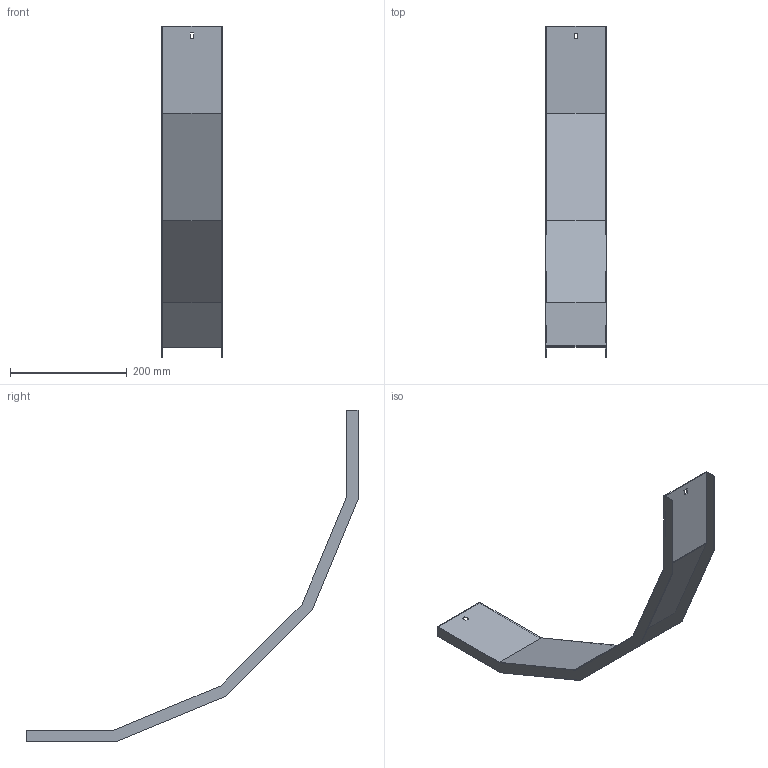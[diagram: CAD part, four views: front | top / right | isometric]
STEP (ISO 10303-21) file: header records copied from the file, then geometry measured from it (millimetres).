
FILE_DESCRIPTION (( 'STEP AP214' ), '1' );
FILE_NAME ('B2X30N5R100X.step', '2025-03-20T09:47:23', ( '' ), ( '' ), 'SwSTEP 2.0', 'SolidWorks 2023', '' );
FILE_SCHEMA (( 'AUTOMOTIVE_DESIGN' ));
Length unit declared in the file: millimetre
Products named in the file (1): B2X30N5R100X
Bounding box: 103 x 569.92 x 569.92 mm (x, y, z)
Volume: 189055.3 mm3; surface area: 255365.7 mm2
Topology: 1 solids, 1 shells, 34 faces, 96 edges, 64 vertices
Faces by surface type: plane 34
Entity records: 1111 total; most frequent: CARTESIAN_POINT 195, ORIENTED_EDGE 192, DIRECTION 166, VECTOR 96, EDGE_CURVE 96, LINE 96, VERTEX_POINT 64, EDGE_LOOP 38
